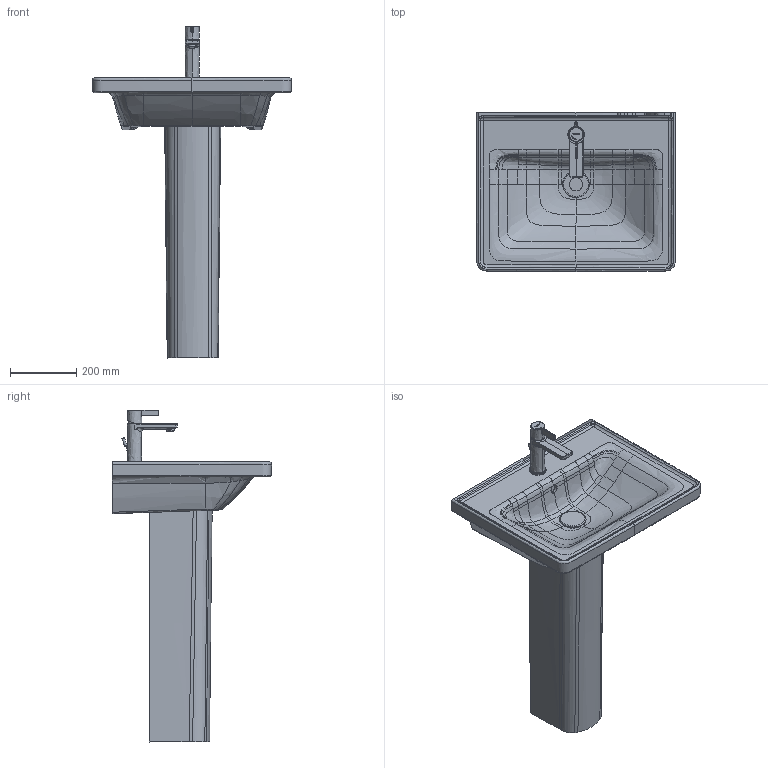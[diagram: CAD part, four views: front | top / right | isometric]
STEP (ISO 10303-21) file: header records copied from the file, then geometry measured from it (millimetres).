
FILE_DESCRIPTION(/* description */ (''),/* implementation_level */ '2;1');
FILE_NAME(/* name */ '236760_085842',/* time_stamp */ '2021-09-22T11:27:05+02:00',/* author */ (''),/* organization */ (''),/* preprocessor_version */ 'ST-DEVELOPER v15',/* originating_system */ '',/* authorisation */ '');
FILE_SCHEMA (('AUTOMOTIVE_DESIGN'));
Length unit declared in the file: millimetre
Products named in the file (1): Document
Bounding box: 600.17 x 480.08 x 1001.43 mm (x, y, z)
Volume: 8772142.7 mm3; surface area: 1771618.7 mm2
Topology: 4 solids, 10 shells, 675 faces, 1640 edges, 996 vertices
Faces by surface type: bspline 531, plane 144
Entity records: 97884 total; most frequent: CARTESIAN_POINT 87691, ORIENTED_EDGE 3242, EDGE_CURVE 1634, B_SPLINE_CURVE_WITH_KNOTS 1344, VERTEX_POINT 996, EDGE_LOOP 714, ADVANCED_FACE 675, FACE_OUTER_BOUND 675
